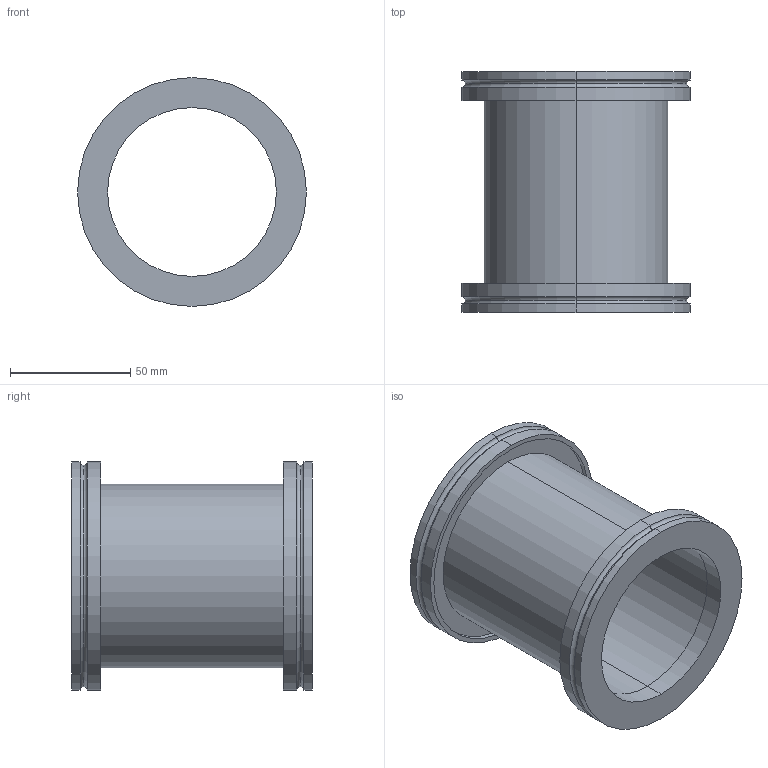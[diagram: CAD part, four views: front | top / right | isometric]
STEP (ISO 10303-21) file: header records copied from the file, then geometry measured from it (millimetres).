
FILE_DESCRIPTION (( 'STEP AP214' ), '1' );
FILE_NAME ('W4ZS63.STEP', '2020-06-09T06:45:06', ( '' ), ( '' ), 'SwSTEP 2.0', 'SolidWorks 2018', '' );
FILE_SCHEMA (( 'AUTOMOTIVE_DESIGN' ));
Length unit declared in the file: millimetre
Products named in the file (1): W4ZS63
Bounding box: 95 x 100 x 95 mm (x, y, z)
Volume: 119947.4 mm3; surface area: 66626.1 mm2
Topology: 3 solids, 3 shells, 42 faces, 84 edges, 52 vertices
Faces by surface type: cylinder 24, plane 10, torus 8
Entity records: 1176 total; most frequent: DIRECTION 230, CARTESIAN_POINT 179, ORIENTED_EDGE 168, AXIS2_PLACEMENT_3D 103, EDGE_CURVE 84, CIRCLE 60, EDGE_LOOP 52, VERTEX_POINT 52
